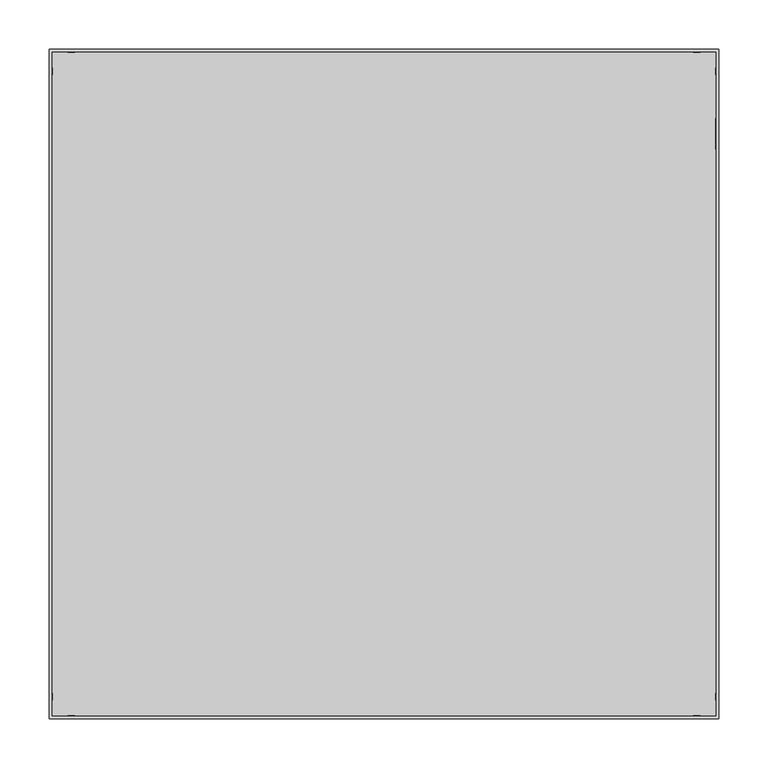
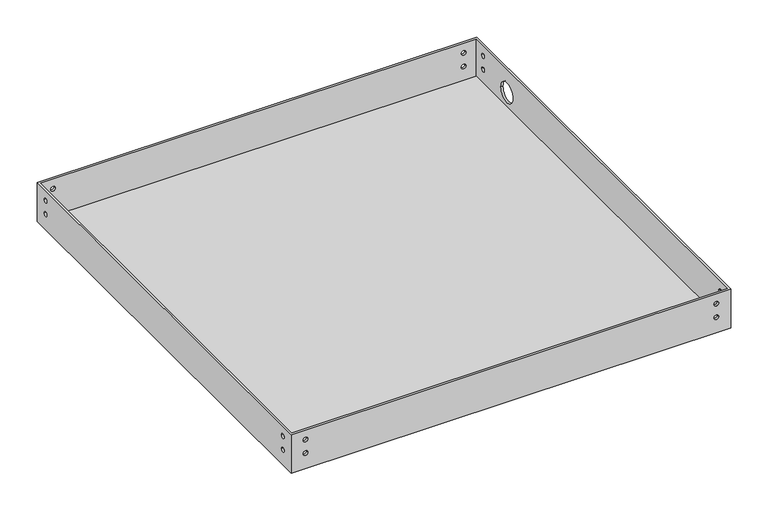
"""IFC4 building model written with IfcOpenShell, lengths in millimetres: proxy geometry, 50 SWHP : #50-SWHP."""

from ifc_helpers import new_model, si_unit, frame, origin, place, context, project, spatial, polyline, circle_curve, source, transform, mapped, element, save
from ifc_brep_helpers import plane_surface, revolved_surface, advanced_brep


def generic_models_0f8f715c(model_context):
    return source(origin(), model_context, "Body", "AdvancedBrep", [
        advanced_brep(
        [(336.55, -336.55, 3.175), (336.55, 336.55, 3.175), (-336.55, 336.55, 3.175), (-336.55, -336.55, 3.175), (339.725, -339.725, 63.5), (339.725, 339.725, 63.5), (-339.725, 339.725, 63.5), (-339.725, -339.725, 63.5), (336.55, 336.55, 63.5), (336.55, -336.55, 63.5), (-336.55, -336.55, 63.5), (-336.55, 336.55, 63.5), (339.725, -339.725, 0.0), (-339.725, -339.725, 0.0), (-339.725, 339.725, 0.0), (339.725, 339.725, 0.0), (336.55, 238.125, 25.9953125), (336.55, 269.875, 25.9953125), (336.55, -321.0687, 47.625), (336.55, -313.9313, 47.625), (336.55, -321.0687, 25.4), (336.55, -313.9313, 25.4), (336.55, 313.9313, 47.625), (336.55, 321.0687, 47.625), (336.55, 313.9313, 25.4), (336.55, 321.0687, 25.4), (-321.0687, -336.55, 47.625), (-313.9313, -336.55, 47.625), (-321.0687, -336.55, 25.4), (-313.9313, -336.55, 25.4), (313.9313, -336.55, 47.625), (321.0687, -336.55, 47.625), (313.9313, -336.55, 25.4), (321.0687, -336.55, 25.4), (-336.55, 321.0687, 47.625), (-336.55, 313.9313, 47.625), (-336.55, 321.0687, 25.4), (-336.55, 313.9313, 25.4), (-336.55, -313.9313, 47.625), (-336.55, -321.0687, 47.625), (-336.55, -313.9313, 25.4), (-336.55, -321.0687, 25.4), (-313.9313, 336.55, 47.625), (-321.0687, 336.55, 47.625), (-313.9313, 336.55, 25.4), (-321.0687, 336.55, 25.4), (321.0687, 336.55, 25.4), (313.9313, 336.55, 25.4), (321.0687, 336.55, 47.625), (313.9313, 336.55, 47.625), (339.725, 269.875, 25.9953125), (339.725, 238.125, 25.9953125), (339.725, -313.9313, 47.625), (339.725, -321.0687, 47.625), (339.725, -313.9313, 25.4), (339.725, -321.0687, 25.4), (339.725, 321.0687, 47.625), (339.725, 313.9313, 47.625), (339.725, 321.0687, 25.4), (339.725, 313.9313, 25.4), (-321.0687, 339.725, 47.625), (-313.9313, 339.725, 47.625), (-321.0687, 339.725, 25.4), (-313.9313, 339.725, 25.4), (313.9313, 339.725, 25.4), (321.0687, 339.725, 25.4), (313.9313, 339.725, 47.625), (321.0687, 339.725, 47.625), (-339.725, 313.9313, 47.625), (-339.725, 321.0687, 47.625), (-339.725, 313.9313, 25.4), (-339.725, 321.0687, 25.4), (-339.725, -321.0687, 47.625), (-339.725, -313.9313, 47.625), (-339.725, -321.0687, 25.4), (-339.725, -313.9313, 25.4), (-313.9313, -339.725, 47.625), (-321.0687, -339.725, 47.625), (-313.9313, -339.725, 25.4), (-321.0687, -339.725, 25.4), (321.0687, -339.725, 47.625), (313.9313, -339.725, 47.625), (321.0687, -339.725, 25.4), (313.9313, -339.725, 25.4)],
        [
            (0, 1),
            (1, 2),
            (2, 3),
            (3, 0),
            (4, 5),
            (5, 6),
            (6, 7),
            (7, 4),
            (8, 9),
            (9, 10),
            (10, 11),
            (11, 8),
            (12, 13),
            (13, 14),
            (14, 15),
            (15, 12),
            (8, 1),
            (0, 9),
            (16, 17, circle_curve(frame((336.55, 254.0, 25.9953125), z_axis=(1.0, 0.0, 0.0), x_axis=(0.0, 1.0, 0.0)), 15.875)),
            (17, 16, circle_curve(frame((336.55, 254.0, 25.9953125), z_axis=(1.0, 0.0, 0.0), x_axis=(0.0, 1.0, 0.0)), 15.875)),
            (18, 19, circle_curve(frame((336.55, -317.5, 47.625), z_axis=(1.0, 0.0, 0.0), x_axis=(0.0, -1.0, 0.0)), 3.5687)),
            (19, 18, circle_curve(frame((336.55, -317.5, 47.625), z_axis=(1.0, 0.0, 0.0), x_axis=(0.0, -1.0, 0.0)), 3.5687)),
            (20, 21, circle_curve(frame((336.55, -317.5, 25.4), z_axis=(1.0, 0.0, 0.0), x_axis=(0.0, -1.0, 0.0)), 3.5687)),
            (21, 20, circle_curve(frame((336.55, -317.5, 25.4), z_axis=(1.0, 0.0, 0.0), x_axis=(0.0, -1.0, 0.0)), 3.5687)),
            (22, 23, circle_curve(frame((336.55, 317.5, 47.625), z_axis=(1.0, 0.0, 0.0), x_axis=(0.0, -1.0, 0.0)), 3.5687)),
            (23, 22, circle_curve(frame((336.55, 317.5, 47.625), z_axis=(1.0, 0.0, 0.0), x_axis=(0.0, -1.0, 0.0)), 3.5687)),
            (24, 25, circle_curve(frame((336.55, 317.5, 25.4), z_axis=(1.0, 0.0, 0.0), x_axis=(0.0, -1.0, 0.0)), 3.5687)),
            (25, 24, circle_curve(frame((336.55, 317.5, 25.4), z_axis=(1.0, 0.0, 0.0), x_axis=(0.0, -1.0, 0.0)), 3.5687)),
            (3, 10),
            (26, 27, circle_curve(frame((-317.5, -336.55, 47.625), z_axis=(0.0, -1.0, 0.0), x_axis=(-1.0, 0.0, 0.0)), 3.5687)),
            (27, 26, circle_curve(frame((-317.5, -336.55, 47.625), z_axis=(0.0, -1.0, 0.0), x_axis=(-1.0, 0.0, 0.0)), 3.5687)),
            (28, 29, circle_curve(frame((-317.5, -336.55, 25.4), z_axis=(0.0, -1.0, 0.0), x_axis=(-1.0, 0.0, 0.0)), 3.5687)),
            (29, 28, circle_curve(frame((-317.5, -336.55, 25.4), z_axis=(0.0, -1.0, 0.0), x_axis=(-1.0, 0.0, 0.0)), 3.5687)),
            (30, 31, circle_curve(frame((317.5, -336.55, 47.625), z_axis=(0.0, -1.0, 0.0), x_axis=(-1.0, 0.0, 0.0)), 3.5687)),
            (31, 30, circle_curve(frame((317.5, -336.55, 47.625), z_axis=(0.0, -1.0, 0.0), x_axis=(-1.0, 0.0, 0.0)), 3.5687)),
            (32, 33, circle_curve(frame((317.5, -336.55, 25.4), z_axis=(0.0, -1.0, 0.0), x_axis=(-1.0, 0.0, 0.0)), 3.5687)),
            (33, 32, circle_curve(frame((317.5, -336.55, 25.4), z_axis=(0.0, -1.0, 0.0), x_axis=(-1.0, 0.0, 0.0)), 3.5687)),
            (2, 11),
            (34, 35, circle_curve(frame((-336.55, 317.5, 47.625), z_axis=(-1.0, 0.0, 0.0), x_axis=(0.0, -1.0, 0.0)), 3.5687)),
            (35, 34, circle_curve(frame((-336.55, 317.5, 47.625), z_axis=(-1.0, 0.0, 0.0), x_axis=(0.0, -1.0, 0.0)), 3.5687)),
            (36, 37, circle_curve(frame((-336.55, 317.5, 25.4), z_axis=(-1.0, 0.0, 0.0), x_axis=(0.0, -1.0, 0.0)), 3.5687)),
            (37, 36, circle_curve(frame((-336.55, 317.5, 25.4), z_axis=(-1.0, 0.0, 0.0), x_axis=(0.0, -1.0, 0.0)), 3.5687)),
            (38, 39, circle_curve(frame((-336.55, -317.5, 47.625), z_axis=(-1.0, 0.0, 0.0), x_axis=(0.0, -1.0, 0.0)), 3.5687)),
            (39, 38, circle_curve(frame((-336.55, -317.5, 47.625), z_axis=(-1.0, 0.0, 0.0), x_axis=(0.0, -1.0, 0.0)), 3.5687)),
            (40, 41, circle_curve(frame((-336.55, -317.5, 25.4), z_axis=(-1.0, 0.0, 0.0), x_axis=(0.0, -1.0, 0.0)), 3.5687)),
            (41, 40, circle_curve(frame((-336.55, -317.5, 25.4), z_axis=(-1.0, 0.0, 0.0), x_axis=(0.0, -1.0, 0.0)), 3.5687)),
            (42, 43, circle_curve(frame((-317.5, 336.55, 47.625), z_axis=(0.0, 1.0, 0.0), x_axis=(-1.0, 0.0, 0.0)), 3.5687)),
            (43, 42, circle_curve(frame((-317.5, 336.55, 47.625), z_axis=(0.0, 1.0, 0.0), x_axis=(-1.0, 0.0, 0.0)), 3.5687)),
            (44, 45, circle_curve(frame((-317.5, 336.55, 25.4), z_axis=(0.0, 1.0, 0.0), x_axis=(-1.0, 0.0, 0.0)), 3.5687)),
            (45, 44, circle_curve(frame((-317.5, 336.55, 25.4), z_axis=(0.0, 1.0, 0.0), x_axis=(-1.0, 0.0, 0.0)), 3.5687)),
            (46, 47, circle_curve(frame((317.5, 336.55, 25.4), z_axis=(0.0, 1.0, 0.0), x_axis=(-1.0, 0.0, 0.0)), 3.5687)),
            (47, 46, circle_curve(frame((317.5, 336.55, 25.4), z_axis=(0.0, 1.0, 0.0), x_axis=(-1.0, 0.0, 0.0)), 3.5687)),
            (48, 49, circle_curve(frame((317.5, 336.55, 47.625), z_axis=(0.0, 1.0, 0.0), x_axis=(-1.0, 0.0, 0.0)), 3.5687)),
            (49, 48, circle_curve(frame((317.5, 336.55, 47.625), z_axis=(0.0, 1.0, 0.0), x_axis=(-1.0, 0.0, 0.0)), 3.5687)),
            (4, 12),
            (15, 5),
            (50, 51, circle_curve(frame((339.725, 254.0, 25.9953125), z_axis=(-1.0, 0.0, 0.0), x_axis=(0.0, 1.0, 0.0)), 15.875)),
            (51, 50, circle_curve(frame((339.725, 254.0, 25.9953125), z_axis=(-1.0, 0.0, 0.0), x_axis=(0.0, 1.0, 0.0)), 15.875)),
            (52, 53, circle_curve(frame((339.725, -317.5, 47.625), z_axis=(-1.0, 0.0, 0.0), x_axis=(0.0, -1.0, 0.0)), 3.5687)),
            (53, 52, circle_curve(frame((339.725, -317.5, 47.625), z_axis=(-1.0, 0.0, 0.0), x_axis=(0.0, -1.0, 0.0)), 3.5687)),
            (54, 55, circle_curve(frame((339.725, -317.5, 25.4), z_axis=(-1.0, 0.0, 0.0), x_axis=(0.0, -1.0, 0.0)), 3.5687)),
            (55, 54, circle_curve(frame((339.725, -317.5, 25.4), z_axis=(-1.0, 0.0, 0.0), x_axis=(0.0, -1.0, 0.0)), 3.5687)),
            (56, 57, circle_curve(frame((339.725, 317.5, 47.625), z_axis=(-1.0, 0.0, 0.0), x_axis=(0.0, -1.0, 0.0)), 3.5687)),
            (57, 56, circle_curve(frame((339.725, 317.5, 47.625), z_axis=(-1.0, 0.0, 0.0), x_axis=(0.0, -1.0, 0.0)), 3.5687)),
            (58, 59, circle_curve(frame((339.725, 317.5, 25.4), z_axis=(-1.0, 0.0, 0.0), x_axis=(0.0, -1.0, 0.0)), 3.5687)),
            (59, 58, circle_curve(frame((339.725, 317.5, 25.4), z_axis=(-1.0, 0.0, 0.0), x_axis=(0.0, -1.0, 0.0)), 3.5687)),
            (14, 6),
            (60, 61, circle_curve(frame((-317.5, 339.725, 47.625), z_axis=(0.0, -1.0, 0.0), x_axis=(-1.0, 0.0, 0.0)), 3.5687)),
            (61, 60, circle_curve(frame((-317.5, 339.725, 47.625), z_axis=(0.0, -1.0, 0.0), x_axis=(-1.0, 0.0, 0.0)), 3.5687)),
            (62, 63, circle_curve(frame((-317.5, 339.725, 25.4), z_axis=(0.0, -1.0, 0.0), x_axis=(-1.0, 0.0, 0.0)), 3.5687)),
            (63, 62, circle_curve(frame((-317.5, 339.725, 25.4), z_axis=(0.0, -1.0, 0.0), x_axis=(-1.0, 0.0, 0.0)), 3.5687)),
            (64, 65, circle_curve(frame((317.5, 339.725, 25.4), z_axis=(0.0, -1.0, 0.0), x_axis=(-1.0, 0.0, 0.0)), 3.5687)),
            (65, 64, circle_curve(frame((317.5, 339.725, 25.4), z_axis=(0.0, -1.0, 0.0), x_axis=(-1.0, 0.0, 0.0)), 3.5687)),
            (66, 67, circle_curve(frame((317.5, 339.725, 47.625), z_axis=(0.0, -1.0, 0.0), x_axis=(-1.0, 0.0, 0.0)), 3.5687)),
            (67, 66, circle_curve(frame((317.5, 339.725, 47.625), z_axis=(0.0, -1.0, 0.0), x_axis=(-1.0, 0.0, 0.0)), 3.5687)),
            (13, 7),
            (68, 69, circle_curve(frame((-339.725, 317.5, 47.625), z_axis=(1.0, 0.0, 0.0), x_axis=(0.0, -1.0, 0.0)), 3.5687)),
            (69, 68, circle_curve(frame((-339.725, 317.5, 47.625), z_axis=(1.0, 0.0, 0.0), x_axis=(0.0, -1.0, 0.0)), 3.5687)),
            (70, 71, circle_curve(frame((-339.725, 317.5, 25.4), z_axis=(1.0, 0.0, 0.0), x_axis=(0.0, -1.0, 0.0)), 3.5687)),
            (71, 70, circle_curve(frame((-339.725, 317.5, 25.4), z_axis=(1.0, 0.0, 0.0), x_axis=(0.0, -1.0, 0.0)), 3.5687)),
            (72, 73, circle_curve(frame((-339.725, -317.5, 47.625), z_axis=(1.0, 0.0, 0.0), x_axis=(0.0, -1.0, 0.0)), 3.5687)),
            (73, 72, circle_curve(frame((-339.725, -317.5, 47.625), z_axis=(1.0, 0.0, 0.0), x_axis=(0.0, -1.0, 0.0)), 3.5687)),
            (74, 75, circle_curve(frame((-339.725, -317.5, 25.4), z_axis=(1.0, 0.0, 0.0), x_axis=(0.0, -1.0, 0.0)), 3.5687)),
            (75, 74, circle_curve(frame((-339.725, -317.5, 25.4), z_axis=(1.0, 0.0, 0.0), x_axis=(0.0, -1.0, 0.0)), 3.5687)),
            (76, 77, circle_curve(frame((-317.5, -339.725, 47.625), z_axis=(0.0, 1.0, 0.0), x_axis=(-1.0, 0.0, 0.0)), 3.5687)),
            (77, 76, circle_curve(frame((-317.5, -339.725, 47.625), z_axis=(0.0, 1.0, 0.0), x_axis=(-1.0, 0.0, 0.0)), 3.5687)),
            (78, 79, circle_curve(frame((-317.5, -339.725, 25.4), z_axis=(0.0, 1.0, 0.0), x_axis=(-1.0, 0.0, 0.0)), 3.5687)),
            (79, 78, circle_curve(frame((-317.5, -339.725, 25.4), z_axis=(0.0, 1.0, 0.0), x_axis=(-1.0, 0.0, 0.0)), 3.5687)),
            (80, 81, circle_curve(frame((317.5, -339.725, 47.625), z_axis=(0.0, 1.0, 0.0), x_axis=(-1.0, 0.0, 0.0)), 3.5687)),
            (81, 80, circle_curve(frame((317.5, -339.725, 47.625), z_axis=(0.0, 1.0, 0.0), x_axis=(-1.0, 0.0, 0.0)), 3.5687)),
            (82, 83, circle_curve(frame((317.5, -339.725, 25.4), z_axis=(0.0, 1.0, 0.0), x_axis=(-1.0, 0.0, 0.0)), 3.5687)),
            (83, 82, circle_curve(frame((317.5, -339.725, 25.4), z_axis=(0.0, 1.0, 0.0), x_axis=(-1.0, 0.0, 0.0)), 3.5687)),
            (16, 51),
            (50, 17),
            (34, 69),
            (68, 35),
            (36, 71),
            (70, 37),
            (38, 73),
            (72, 39),
            (40, 75),
            (74, 41),
            (76, 27),
            (26, 77),
            (78, 29),
            (28, 79),
            (80, 31),
            (30, 81),
            (82, 33),
            (32, 83),
            (52, 19),
            (18, 53),
            (54, 21),
            (20, 55),
            (56, 23),
            (22, 57),
            (58, 25),
            (24, 59),
            (42, 61),
            (60, 43),
            (44, 63),
            (62, 45),
            (46, 65),
            (64, 47),
            (48, 67),
            (66, 49),
        ],
        [
            plane_surface(frame((-336.55, 336.55, 3.175), z_axis=(0.0, 0.0, 1.0), x_axis=(-1.0, 0.0, 0.0))),
            plane_surface(frame((336.55, 336.55, 63.5), z_axis=(0.0, 0.0, 1.0), x_axis=(0.0, -1.0, 0.0))),
            plane_surface(frame((336.55, 336.55, 0.0), z_axis=(0.0, 0.0, -1.0), x_axis=(0.0, 1.0, 0.0))),
            plane_surface(frame((336.55, 336.55, 63.5), z_axis=(-1.0, 0.0, 0.0), x_axis=(0.0, 0.0, -1.0))),
            plane_surface(frame((336.55, -336.55, 63.5), z_axis=(0.0, 1.0, 0.0), x_axis=(0.0, 0.0, -1.0))),
            plane_surface(frame((-336.55, -336.55, 63.5), z_axis=(1.0, 0.0, 0.0), x_axis=(0.0, 0.0, -1.0))),
            plane_surface(frame((-336.55, 336.55, 63.5), z_axis=(0.0, -1.0, 0.0), x_axis=(0.0, 0.0, -1.0))),
            plane_surface(frame((339.725, -339.725, 63.5), z_axis=(1.0, 0.0, 0.0), x_axis=(0.0, 0.0, -1.0))),
            plane_surface(frame((339.725, 339.725, 63.5), z_axis=(0.0, 1.0, 0.0), x_axis=(0.0, 0.0, -1.0))),
            plane_surface(frame((-339.725, 339.725, 63.5), z_axis=(-1.0, 0.0, 0.0), x_axis=(0.0, 0.0, -1.0))),
            plane_surface(frame((-339.725, -339.725, 63.5), z_axis=(0.0, -1.0, 0.0), x_axis=(0.0, 0.0, -1.0))),
            revolved_surface(polyline([(339.725, 269.875, 25.9953125), (336.55, 269.875, 25.9953125)]), (336.55, 254.0, 25.9953125), (1.0, 0.0, 0.0)),
            revolved_surface(polyline([(-339.725, 313.9313, 47.625), (-336.55, 313.9313, 47.625)]), (-336.55, 317.5, 47.625), (-1.0, 0.0, 0.0)),
            revolved_surface(polyline([(-339.725, 313.9313, 25.4), (-336.55, 313.9313, 25.4)]), (-344.3986, 317.5, 25.4), (-1.0, 0.0, 0.0)),
            revolved_surface(polyline([(-339.725, -321.0687, 47.625), (-336.55, -321.0687, 47.625)]), (-336.55, -317.5, 47.625), (-1.0, 0.0, 0.0)),
            revolved_surface(polyline([(-339.725, -321.0687, 25.4), (-336.55, -321.0687, 25.4)]), (-344.3986, -317.5, 25.4), (-1.0, 0.0, 0.0)),
            revolved_surface(polyline([(-321.0687, -336.55, 47.625), (-321.0687, -339.725, 47.625)]), (-317.5, -344.3986, 47.625), (0.0, 1.0, 0.0)),
            revolved_surface(polyline([(-321.0687, -336.55, 25.4), (-321.0687, -339.725, 25.4)]), (-317.5, -344.3986, 25.4), (0.0, 1.0, 0.0)),
            revolved_surface(polyline([(313.9313, -336.55, 47.625), (313.9313, -339.725, 47.625)]), (317.5, -344.3986, 47.625), (0.0, 1.0, 0.0)),
            revolved_surface(polyline([(313.9313, -336.55, 25.4), (313.9313, -339.725, 25.4)]), (317.5, -344.3986, 25.4), (0.0, 1.0, 0.0)),
            revolved_surface(polyline([(336.55, -321.0687, 47.625), (339.725, -321.0687, 47.625)]), (344.3986, -317.5, 47.625), (-1.0, 0.0, 0.0)),
            revolved_surface(polyline([(336.55, -321.0687, 25.4), (339.725, -321.0687, 25.4)]), (344.3986, -317.5, 25.4), (-1.0, 0.0, 0.0)),
            revolved_surface(polyline([(336.55, 313.9313, 47.625), (339.725, 313.9313, 47.625)]), (344.3986, 317.5, 47.625), (-1.0, 0.0, 0.0)),
            revolved_surface(polyline([(336.55, 313.9313, 25.4), (339.725, 313.9313, 25.4)]), (344.3986, 317.5, 25.4), (-1.0, 0.0, 0.0)),
            revolved_surface(polyline([(-321.0687, 339.725, 47.625), (-321.0687, 336.55, 47.625)]), (-317.5, 336.55, 47.625), (0.0, 1.0, 0.0)),
            revolved_surface(polyline([(-321.0687, 339.725, 25.4), (-321.0687, 336.55, 25.4)]), (-317.5, 344.3986, 25.4), (0.0, 1.0, 0.0)),
            revolved_surface(polyline([(313.9313, 339.725, 25.4), (313.9313, 336.55, 25.4)]), (317.5, 336.55, 25.4), (0.0, 1.0, 0.0)),
            revolved_surface(polyline([(313.9313, 339.725, 47.625), (313.9313, 336.55, 47.625)]), (317.5, 344.3986, 47.625), (0.0, 1.0, 0.0)),
        ],
        [
            (0, [[1, 2, 3, 4]]),
            (1, [[5, 6, 7, 8], [9, 10, 11, 12]]),
            (2, [[13, 14, 15, 16]]),
            (3, [[-9, 17, -1, 18], [19, 20], [21, 22], [23, 24], [25, 26], [27, 28]]),
            (4, [[-10, -18, -4, 29], [30, 31], [32, 33], [34, 35], [36, 37]]),
            (5, [[-11, -29, -3, 38], [39, 40], [41, 42], [43, 44], [45, 46]]),
            (6, [[-12, -38, -2, -17], [47, 48], [49, 50], [51, 52], [53, 54]]),
            (7, [[-5, 55, -16, 56], [57, 58], [59, 60], [61, 62], [63, 64], [65, 66]]),
            (8, [[-6, -56, -15, 67], [68, 69], [70, 71], [72, 73], [74, 75]]),
            (9, [[-7, -67, -14, 76], [77, 78], [79, 80], [81, 82], [83, 84]]),
            (10, [[-8, -76, -13, -55], [85, 86], [87, 88], [89, 90], [91, 92]]),
            (11, [[93, -57, 94, -19]]),
            (11, [[-93, -20, -94, -58]]),
            (12, [[95, -77, 96, -39]]),
            (12, [[-95, -40, -96, -78]]),
            (13, [[97, -79, 98, -41]]),
            (13, [[-97, -42, -98, -80]]),
            (14, [[99, -81, 100, -43]]),
            (14, [[-99, -44, -100, -82]]),
            (15, [[101, -83, 102, -45]]),
            (15, [[-101, -46, -102, -84]]),
            (16, [[103, -30, 104, -85]]),
            (16, [[-103, -86, -104, -31]]),
            (17, [[105, -32, 106, -87]]),
            (17, [[-105, -88, -106, -33]]),
            (18, [[107, -34, 108, -89]]),
            (18, [[-107, -90, -108, -35]]),
            (19, [[109, -36, 110, -91]]),
            (19, [[-109, -92, -110, -37]]),
            (20, [[111, -21, 112, -59]]),
            (20, [[-111, -60, -112, -22]]),
            (21, [[113, -23, 114, -61]]),
            (21, [[-113, -62, -114, -24]]),
            (22, [[115, -25, 116, -63]]),
            (22, [[-115, -64, -116, -26]]),
            (23, [[117, -27, 118, -65]]),
            (23, [[-117, -66, -118, -28]]),
            (24, [[119, -68, 120, -47]]),
            (24, [[-119, -48, -120, -69]]),
            (25, [[121, -70, 122, -49]]),
            (25, [[-121, -50, -122, -71]]),
            (26, [[123, -72, 124, -51]]),
            (26, [[-123, -52, -124, -73]]),
            (27, [[125, -74, 126, -53]]),
            (27, [[-125, -54, -126, -75]]),
        ],
    ),
    ])


if __name__ == "__main__":
    model = new_model("IFC4")
    model_context = context("Model", 3, world=origin())
    ifc_project = project(units=[si_unit("LENGTHUNIT", "METRE", prefix="MILLI")], contexts=[model_context])
    site = spatial("IfcSite", under=ifc_project)
    building = spatial("IfcBuilding", under=site)
    placement = place(None, origin())
    generic_models_shape = generic_models_0f8f715c(model_context)
    element("IfcBuildingElementProxy", 1, Name="50 SWHP : #50-SWHP", ObjectType="50 SWHP : #50-SWHP", at=placement, inside=building, context=model_context, shape_type="MappedRepresentation", body=[
        mapped(generic_models_shape, transform((0.0, 0.0, 0.0), x_axis=(1.0, 0.0, 0.0), y_axis=(0.0, 1.0, 0.0), z_axis=(0.0, 0.0, 1.0))),
    ])
    save(model, "model.ifc")
